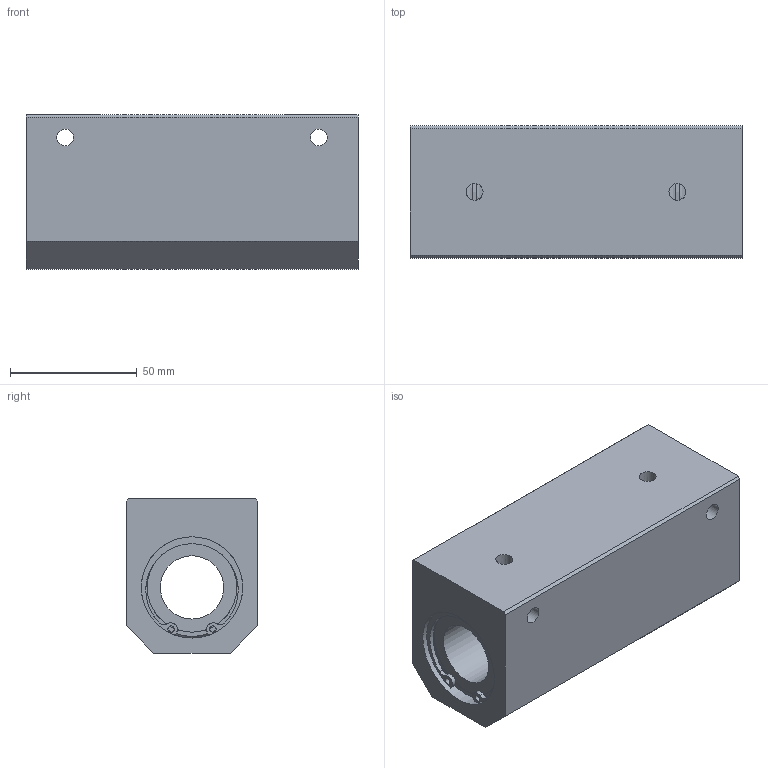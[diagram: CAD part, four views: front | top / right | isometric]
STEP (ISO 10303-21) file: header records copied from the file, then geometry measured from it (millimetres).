
FILE_DESCRIPTION((''),'2;1');
FILE_NAME('D:\製品 (図面)\カタログ用3D\メンテナンスフリー関連\STEP形式\CHW-MF\CHW25MF.stp','2010-06-01T15:33:49',('Tsuchiya'),(''),'Autodesk Inventor 10','Autodesk Inventor 10','');
FILE_SCHEMA(('AUTOMOTIVE_DESIGN { 1 0 10303 214 1 1 1 1 }'));
Length unit declared in the file: millimetre
Products named in the file (1): CHW25MF
Bounding box: 131 x 52 x 61 mm (x, y, z)
Volume: 323035.7 mm3; surface area: 48874.9 mm2
Topology: 1 solids, 1 shells, 77 faces, 217 edges, 132 vertices
Faces by surface type: plane 33, bspline 22, cylinder 20, torus 2
Full cylindrical faces by diameter (mm): 2.5 x2, 25 x1, 35.3 x2, 38 x2, 40 x2
Entity records: 2626 total; most frequent: CARTESIAN_POINT 760, DIRECTION 400, ORIENTED_EDGE 360, EDGE_CURVE 180, AXIS2_PLACEMENT_3D 174, CIRCLE 118, EDGE_LOOP 118, VERTEX_POINT 116
